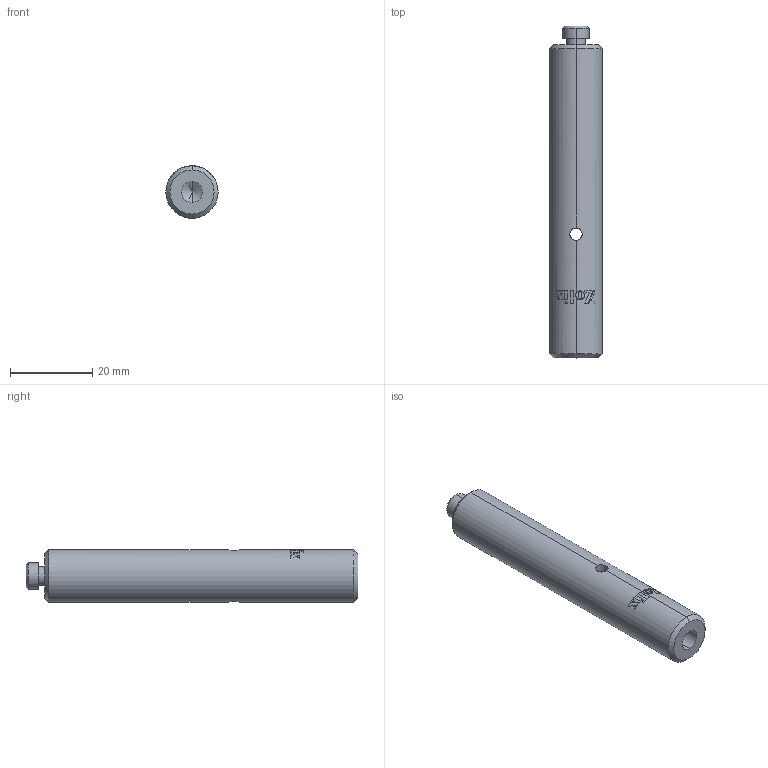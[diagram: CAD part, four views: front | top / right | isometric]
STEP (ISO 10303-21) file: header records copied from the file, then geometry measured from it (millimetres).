
FILE_DESCRIPTION (( 'STEP AP203' ), '1' );
FILE_NAME ('PEP12.7-76.step', '2019-05-09T09:05:51', ( '' ), ( '' ), 'SwSTEP 2.0', 'SolidWorks 2016', '' );
FILE_SCHEMA (( 'CONFIG_CONTROL_DESIGN' ));
Length unit declared in the file: millimetre
Products named in the file (1): PEP12.7-76
Bounding box: 12.7 x 80.5 x 12.71 mm (x, y, z)
Volume: 9402 mm3; surface area: 3610.9 mm2
Topology: 1 solids, 1 shells, 172 faces, 475 edges, 313 vertices
Faces by surface type: bspline 121, plane 23, cylinder 20, cone 8
Entity records: 6178 total; most frequent: CARTESIAN_POINT 2794, ORIENTED_EDGE 946, EDGE_CURVE 473, B_SPLINE_CURVE_WITH_KNOTS 382, VERTEX_POINT 313, DIRECTION 243, EDGE_LOOP 184, ADVANCED_FACE 172
